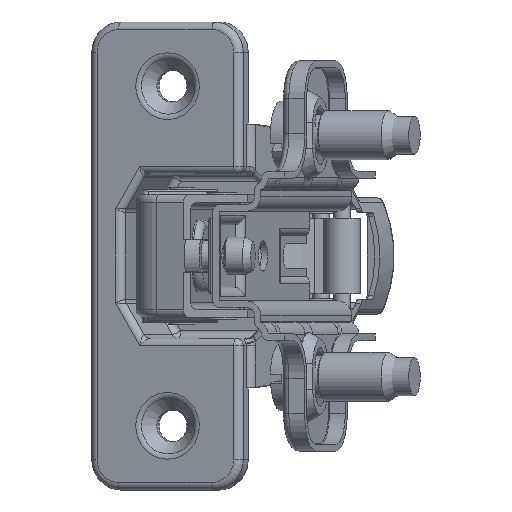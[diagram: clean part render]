
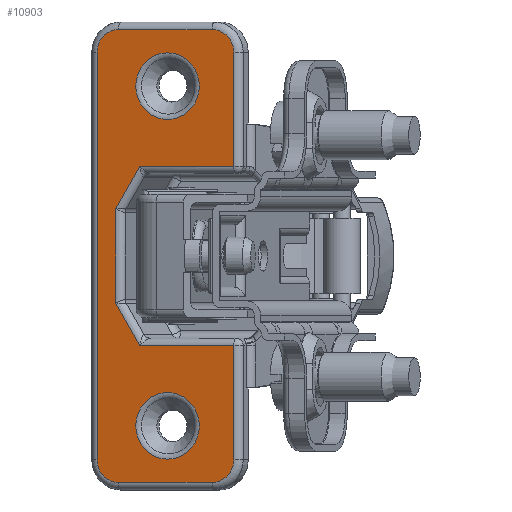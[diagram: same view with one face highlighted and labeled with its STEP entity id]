
A CAD part, left-side view. The second image highlights one B-rep face of the part: STEP entity #10903.
In plain terms, the highlighted planar face has unit normal (-0.953, 0.303, 0) as drawn and (0.393, 0.92, 0) by its records, which use the part's own axes.
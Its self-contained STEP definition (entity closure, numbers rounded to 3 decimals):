
#906=LINE('',#18739,#1689);
#907=LINE('',#18741,#1690);
#908=LINE('',#18743,#1691);
#909=LINE('',#18745,#1692);
#910=LINE('',#18747,#1693);
#911=LINE('',#18749,#1694);
#912=LINE('',#18751,#1695);
#913=LINE('',#18755,#1696);
#914=LINE('',#18759,#1697);
#915=LINE('',#18762,#1698);
#1689=VECTOR('',#14688,15.119);
#1690=VECTOR('',#14689,13.07);
#1691=VECTOR('',#14690,6.517);
#1692=VECTOR('',#14691,12.548);
#1693=VECTOR('',#14692,6.517);
#1694=VECTOR('',#14693,13.07);
#1695=VECTOR('',#14694,15.119);
#1696=VECTOR('',#14697,13.);
#1697=VECTOR('',#14700,54.);
#1698=VECTOR('',#14703,13.);
#2092=PLANE('',#12003);
#2238=FACE_BOUND('',#3394,.T.);
#2239=FACE_BOUND('',#3395,.T.);
#2673=FACE_OUTER_BOUND('',#3393,.T.);
#3393=EDGE_LOOP('',(#8959,#8960,#8961,#8962,#8963,#8964,#8965,#8966,#8967,
#8968,#8969,#8970,#8971,#8972));
#3394=EDGE_LOOP('',(#8973));
#3395=EDGE_LOOP('',(#8974));
#4154=CIRCLE('',#12002,4.414);
#4155=CIRCLE('',#12004,3.);
#4156=CIRCLE('',#12005,3.);
#4157=CIRCLE('',#12006,3.);
#4158=CIRCLE('',#12007,3.);
#4159=CIRCLE('',#12008,4.414);
#5051=VERTEX_POINT('',#18732);
#5052=VERTEX_POINT('',#18735);
#5053=VERTEX_POINT('',#18736);
#5054=VERTEX_POINT('',#18738);
#5055=VERTEX_POINT('',#18740);
#5056=VERTEX_POINT('',#18742);
#5057=VERTEX_POINT('',#18744);
#5058=VERTEX_POINT('',#18746);
#5059=VERTEX_POINT('',#18748);
#5060=VERTEX_POINT('',#18750);
#5061=VERTEX_POINT('',#18752);
#5062=VERTEX_POINT('',#18754);
#5063=VERTEX_POINT('',#18756);
#5064=VERTEX_POINT('',#18758);
#5065=VERTEX_POINT('',#18760);
#5066=VERTEX_POINT('',#18763);
#6408=EDGE_CURVE('',#5051,#5051,#4154,.T.);
#6409=EDGE_CURVE('',#5052,#5053,#4155,.T.);
#6410=EDGE_CURVE('',#5054,#5052,#906,.T.);
#6411=EDGE_CURVE('',#5055,#5054,#907,.T.);
#6412=EDGE_CURVE('',#5056,#5055,#908,.T.);
#6413=EDGE_CURVE('',#5057,#5056,#909,.T.);
#6414=EDGE_CURVE('',#5058,#5057,#910,.T.);
#6415=EDGE_CURVE('',#5059,#5058,#911,.T.);
#6416=EDGE_CURVE('',#5060,#5059,#912,.T.);
#6417=EDGE_CURVE('',#5061,#5060,#4156,.T.);
#6418=EDGE_CURVE('',#5062,#5061,#913,.T.);
#6419=EDGE_CURVE('',#5063,#5062,#4157,.T.);
#6420=EDGE_CURVE('',#5064,#5063,#914,.T.);
#6421=EDGE_CURVE('',#5065,#5064,#4158,.T.);
#6422=EDGE_CURVE('',#5053,#5065,#915,.T.);
#6423=EDGE_CURVE('',#5066,#5066,#4159,.T.);
#8959=ORIENTED_EDGE('',*,*,#6409,.F.);
#8960=ORIENTED_EDGE('',*,*,#6410,.F.);
#8961=ORIENTED_EDGE('',*,*,#6411,.F.);
#8962=ORIENTED_EDGE('',*,*,#6412,.F.);
#8963=ORIENTED_EDGE('',*,*,#6413,.F.);
#8964=ORIENTED_EDGE('',*,*,#6414,.F.);
#8965=ORIENTED_EDGE('',*,*,#6415,.F.);
#8966=ORIENTED_EDGE('',*,*,#6416,.F.);
#8967=ORIENTED_EDGE('',*,*,#6417,.F.);
#8968=ORIENTED_EDGE('',*,*,#6418,.F.);
#8969=ORIENTED_EDGE('',*,*,#6419,.F.);
#8970=ORIENTED_EDGE('',*,*,#6420,.F.);
#8971=ORIENTED_EDGE('',*,*,#6421,.F.);
#8972=ORIENTED_EDGE('',*,*,#6422,.F.);
#8973=ORIENTED_EDGE('',*,*,#6423,.F.);
#8974=ORIENTED_EDGE('',*,*,#6408,.F.);
#10903=ADVANCED_FACE('',(#2673,#2238,#2239),#2092,.T.);
#12002=AXIS2_PLACEMENT_3D('',#18733,#14682,#14683);
#12003=AXIS2_PLACEMENT_3D('',#18734,#14684,#14685);
#12004=AXIS2_PLACEMENT_3D('',#18737,#14686,#14687);
#12005=AXIS2_PLACEMENT_3D('',#18753,#14695,#14696);
#12006=AXIS2_PLACEMENT_3D('',#18757,#14698,#14699);
#12007=AXIS2_PLACEMENT_3D('',#18761,#14701,#14702);
#12008=AXIS2_PLACEMENT_3D('',#18764,#14704,#14705);
#14682=DIRECTION('center_axis',(0.393,0.92,0.));
#14683=DIRECTION('ref_axis',(-0.92,0.393,0.));
#14684=DIRECTION('center_axis',(0.393,0.92,0.));
#14685=DIRECTION('ref_axis',(-0.92,0.393,0.));
#14686=DIRECTION('center_axis',(-0.393,-0.92,0.));
#14687=DIRECTION('ref_axis',(-0.65,0.278,-0.707));
#14688=DIRECTION('',(0.,0.,-1.));
#14689=DIRECTION('',(-0.92,0.393,0.));
#14690=DIRECTION('',(-0.469,0.2,-0.86));
#14691=DIRECTION('',(0.,0.,-1.));
#14692=DIRECTION('',(0.469,-0.2,-0.86));
#14693=DIRECTION('',(0.92,-0.393,0.));
#14694=DIRECTION('',(0.,0.,-1.));
#14695=DIRECTION('center_axis',(-0.393,-0.92,0.));
#14696=DIRECTION('ref_axis',(-0.65,0.278,0.707));
#14697=DIRECTION('',(-0.92,0.393,0.));
#14698=DIRECTION('center_axis',(-0.393,-0.92,0.));
#14699=DIRECTION('ref_axis',(0.65,-0.278,0.707));
#14700=DIRECTION('',(0.,0.,1.));
#14701=DIRECTION('center_axis',(-0.393,-0.92,0.));
#14702=DIRECTION('ref_axis',(0.65,-0.278,-0.707));
#14703=DIRECTION('',(0.92,-0.393,0.));
#14704=DIRECTION('center_axis',(0.393,0.92,0.));
#14705=DIRECTION('ref_axis',(-0.92,0.393,0.));
#18732=CARTESIAN_POINT('',(42.537,-12.023,22.5));
#18733=CARTESIAN_POINT('Origin',(38.477,-10.29,22.5));
#18734=CARTESIAN_POINT('Origin',(48.41,-14.53,0.));
#18735=CARTESIAN_POINT('',(30.016,-6.678,-27.));
#18736=CARTESIAN_POINT('',(32.775,-7.856,-30.));
#18737=CARTESIAN_POINT('Origin',(32.775,-7.856,-27.));
#18738=CARTESIAN_POINT('',(30.016,-6.678,-11.881));
#18739=CARTESIAN_POINT('',(30.016,-6.678,0.));
#18740=CARTESIAN_POINT('',(42.037,-11.809,-11.881));
#18741=CARTESIAN_POINT('',(38.753,-10.408,-11.881));
#18742=CARTESIAN_POINT('',(45.092,-13.113,-6.274));
#18743=CARTESIAN_POINT('',(45.394,-13.242,-5.719));
#18744=CARTESIAN_POINT('',(45.092,-13.113,6.274));
#18745=CARTESIAN_POINT('',(45.092,-13.113,-3.));
#18746=CARTESIAN_POINT('',(42.037,-11.809,11.881));
#18747=CARTESIAN_POINT('',(46.724,-13.81,3.279));
#18748=CARTESIAN_POINT('',(30.016,-6.678,11.881));
#18749=CARTESIAN_POINT('',(44.961,-13.057,11.881));
#18750=CARTESIAN_POINT('',(30.016,-6.678,27.));
#18751=CARTESIAN_POINT('',(30.016,-6.678,0.));
#18752=CARTESIAN_POINT('',(32.775,-7.856,30.));
#18753=CARTESIAN_POINT('Origin',(32.775,-7.856,27.));
#18754=CARTESIAN_POINT('',(44.731,-12.959,30.));
#18755=CARTESIAN_POINT('',(39.755,-10.835,30.));
#18756=CARTESIAN_POINT('',(47.491,-14.137,27.));
#18757=CARTESIAN_POINT('Origin',(44.731,-12.959,27.));
#18758=CARTESIAN_POINT('',(47.491,-14.137,-27.));
#18759=CARTESIAN_POINT('',(47.491,-14.137,0.));
#18760=CARTESIAN_POINT('',(44.731,-12.959,-30.));
#18761=CARTESIAN_POINT('Origin',(44.731,-12.959,-27.));
#18762=CARTESIAN_POINT('',(39.755,-10.835,-30.));
#18763=CARTESIAN_POINT('',(42.537,-12.023,-22.5));
#18764=CARTESIAN_POINT('Origin',(38.477,-10.29,-22.5));
